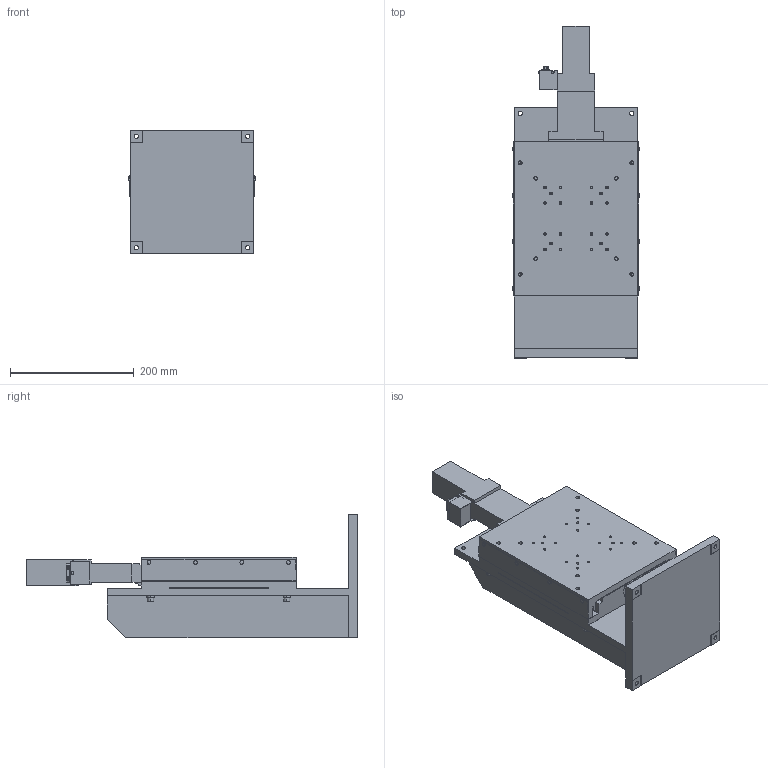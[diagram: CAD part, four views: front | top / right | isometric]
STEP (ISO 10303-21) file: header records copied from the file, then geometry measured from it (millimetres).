
FILE_DESCRIPTION (( 'STEP AP203' ), '1' );
FILE_NAME ('ALZ-215-H1P.STEP', '2008-03-11T09:32:02', ( '' ), ( '' ), 'SwSTEP 2.0', 'SolidWorks 2007', '' );
FILE_SCHEMA (( 'CONFIG_CONTROL_DESIGN' ));
Length unit declared in the file: millimetre
Products named in the file (3): ALZ-215-H1P-2_蹬怮椔; ALZ-215-H1P; ALZ-215-H1P-1_蹬怮椔
Assembly tree (2 placements, depth 2):
  ALZ-215-H1P
    ALZ-215-H1P-2_蹬怮椔
    ALZ-215-H1P-1_蹬怮椔
Bounding box: 205.65 x 536 x 200 mm (x, y, z)
Volume: 4719191.7 mm3; surface area: 691305.3 mm2
Topology: 2 solids, 7 shells, 518 faces, 1287 edges, 850 vertices
Faces by surface type: plane 254, cylinder 219, cone 26, bspline 11, torus 4, sphere 4
Entity records: 18164 total; most frequent: CARTESIAN_POINT 4919, DIRECTION 2785, ORIENTED_EDGE 2574, EDGE_CURVE 1287, AXIS2_PLACEMENT_3D 1008, VERTEX_POINT 850, VECTOR 769, LINE 769
